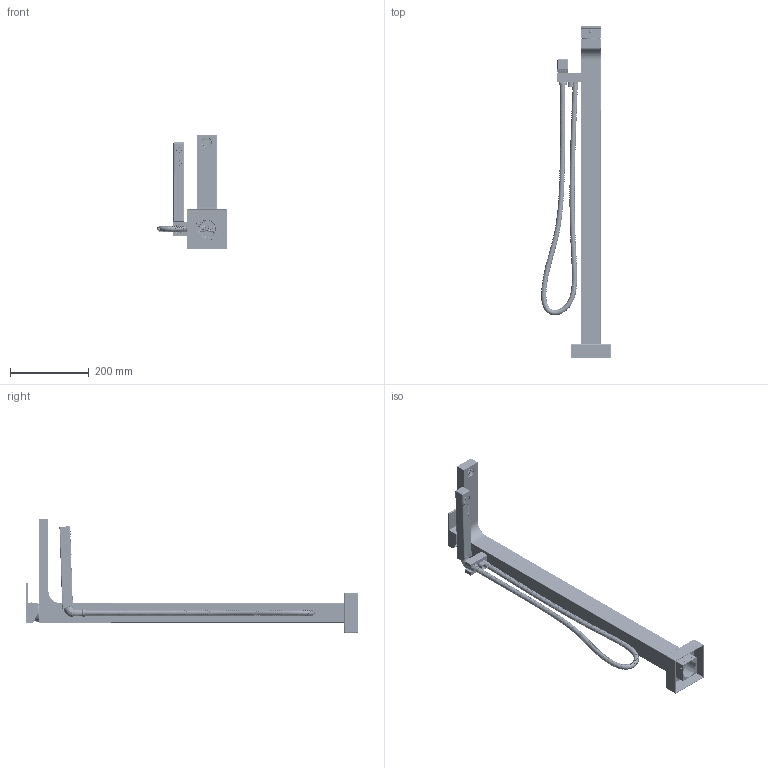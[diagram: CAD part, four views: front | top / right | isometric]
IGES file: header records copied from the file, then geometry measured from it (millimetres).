
Start section: SolidWorks IGES file using analytic representation for surfaces
Global section: file name: C:\Users\ccai\Desktop\CeliaC\Projects\0920-ADHOC-02495&02496 Neutral File#3\sku_tqa38series_igs\DUP_TQA38SERIES.IGS; native system: SolidWorks 2023; preprocessor: SolidWorks 2023; author: ccai; date: 240919.095500; units: millimetre
Bounding box: 176.88 x 841.2 x 289 mm (x, y, z)
Surface area: 831649.3 mm2 (no closed solid volume)
Topology: 0 solids, 0 shells, 16446 faces, 162749 edges, 162619 vertices
Faces by surface type: bspline 10031, revolution 6415
